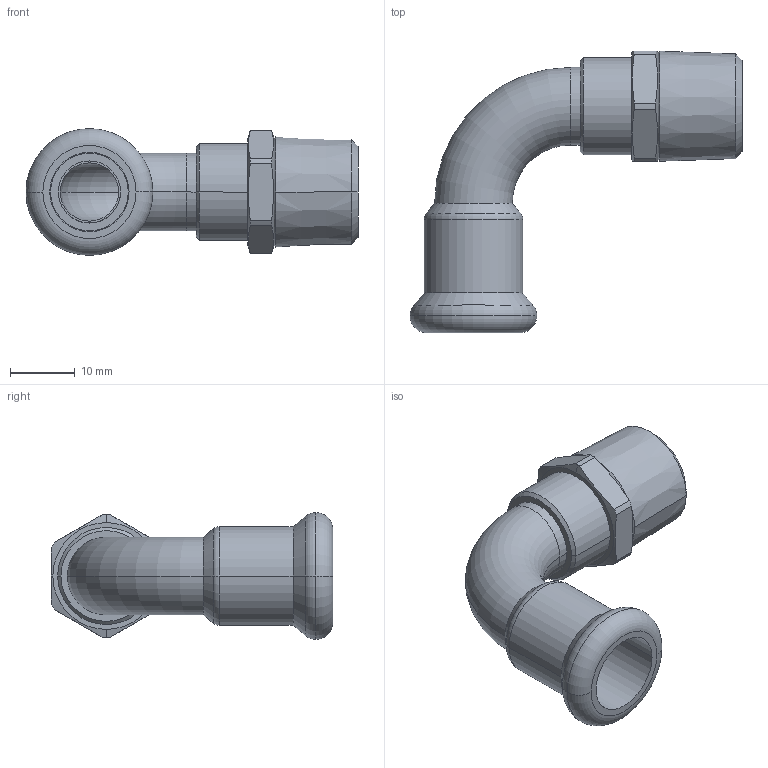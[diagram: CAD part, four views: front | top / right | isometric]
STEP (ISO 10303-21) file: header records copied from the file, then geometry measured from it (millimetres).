
FILE_DESCRIPTION(('CoCreate Modeling STEP Export'),'2;1');
FILE_NAME('C1430 12xR3-8.stp','2014-11-12T16:13:26',(''),(''),'CoCreate Modeling STEP processor for AP214 (Solid Model)','CoCreate Modeling 17.00A 17-Jun-2010 (C) Parametric Technology GmbH','');
FILE_SCHEMA(('AUTOMOTIVE_DESIGN { 1 0 10303 214 1 1 1 1 }'));
Length unit declared in the file: millimetre
Products named in the file (2): C1430_12xR3-8
Assembly tree (1 placements, depth 2):
  C1430_12xR3-8
    C1430_12xR3-8
Bounding box: 51.3 x 43.5 x 19.6 mm (x, y, z)
Volume: 6096.8 mm3; surface area: 6038.6 mm2
Topology: 1 solids, 1 shells, 62 faces, 142 edges, 88 vertices
Faces by surface type: cylinder 22, cone 16, plane 14, torus 10
Entity records: 2008 total; most frequent: CARTESIAN_POINT 737, ORIENTED_EDGE 284, DIRECTION 222, EDGE_CURVE 142, AXIS2_PLACEMENT_3D 89, VERTEX_POINT 88, EDGE_LOOP 70, FACE_OUTER_BOUND 62
